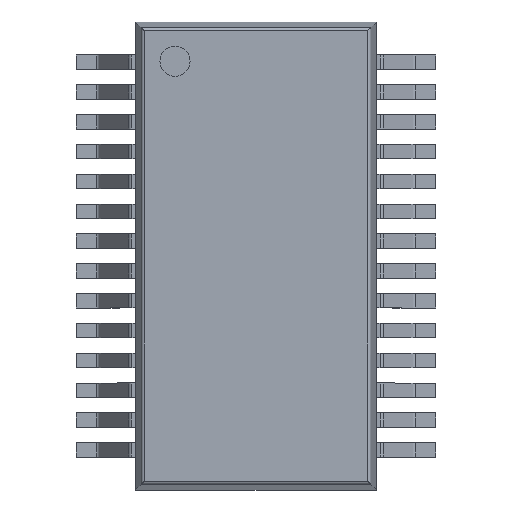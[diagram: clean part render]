
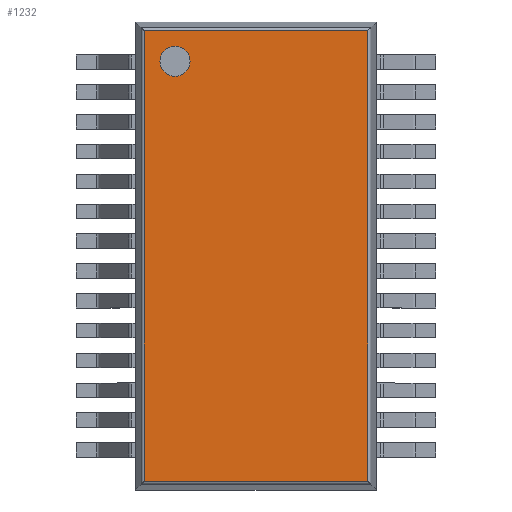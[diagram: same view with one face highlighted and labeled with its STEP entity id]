
A CAD part, top view. The second image highlights one B-rep face of the part: STEP entity #1232.
In plain terms, the highlighted planar face has unit normal (0, 0, 1).
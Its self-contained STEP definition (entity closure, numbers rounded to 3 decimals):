
#829 = CYLINDRICAL_SURFACE('',#830,0.07);
#830 = AXIS2_PLACEMENT_3D('',#831,#832,#833);
#831 = CARTESIAN_POINT('',(-2.431,-4.969,1.91));
#832 = DIRECTION('',(0.,1.,0.));
#833 = DIRECTION('',(-0.989,0.,0.145));
#971 = CYLINDRICAL_SURFACE('',#972,0.07);
#972 = AXIS2_PLACEMENT_3D('',#973,#974,#975);
#973 = CARTESIAN_POINT('',(-2.491,-4.908,1.91));
#974 = DIRECTION('',(1.,0.,0.));
#975 = DIRECTION('',(0.,-0.989,0.145));
#987 = VERTEX_POINT('',#988);
#988 = CARTESIAN_POINT('',(-2.431,-4.908,1.98));
#1022 = EDGE_CURVE('',#987,#1023,#1025,.T.);
#1023 = VERTEX_POINT('',#1024);
#1024 = CARTESIAN_POINT('',(-2.431,4.908,1.98));
#1025 = SURFACE_CURVE('',#1026,(#1030,#1037),.PCURVE_S1.);
#1026 = LINE('',#1027,#1028);
#1027 = CARTESIAN_POINT('',(-2.431,-4.969,1.98));
#1028 = VECTOR('',#1029,1.);
#1029 = DIRECTION('',(0.,1.,0.));
#1030 = PCURVE('',#829,#1031);
#1031 = DEFINITIONAL_REPRESENTATION('',(#1032),#1036);
#1032 = LINE('',#1033,#1034);
#1033 = CARTESIAN_POINT('',(1.425,0.));
#1034 = VECTOR('',#1035,1.);
#1035 = DIRECTION('',(0.,1.));
#1036 = ( GEOMETRIC_REPRESENTATION_CONTEXT(2) 
PARAMETRIC_REPRESENTATION_CONTEXT() REPRESENTATION_CONTEXT('2D SPACE',''
  ) );
#1037 = PCURVE('',#1038,#1043);
#1038 = PLANE('',#1039);
#1039 = AXIS2_PLACEMENT_3D('',#1040,#1041,#1042);
#1040 = CARTESIAN_POINT('',(-2.623,-5.1,1.98));
#1041 = DIRECTION('',(0.,0.,1.));
#1042 = DIRECTION('',(1.,0.,0.));
#1043 = DEFINITIONAL_REPRESENTATION('',(#1044),#1048);
#1044 = LINE('',#1045,#1046);
#1045 = CARTESIAN_POINT('',(0.192,0.131));
#1046 = VECTOR('',#1047,1.);
#1047 = DIRECTION('',(0.,1.));
#1048 = ( GEOMETRIC_REPRESENTATION_CONTEXT(2) 
PARAMETRIC_REPRESENTATION_CONTEXT() REPRESENTATION_CONTEXT('2D SPACE',''
  ) );
#1071 = CYLINDRICAL_SURFACE('',#1072,0.07);
#1072 = AXIS2_PLACEMENT_3D('',#1073,#1074,#1075);
#1073 = CARTESIAN_POINT('',(-2.491,4.908,1.91));
#1074 = DIRECTION('',(1.,0.,0.));
#1075 = DIRECTION('',(0.,0.,1.));
#1159 = CYLINDRICAL_SURFACE('',#1160,0.07);
#1160 = AXIS2_PLACEMENT_3D('',#1161,#1162,#1163);
#1161 = CARTESIAN_POINT('',(2.431,-4.969,1.91));
#1162 = DIRECTION('',(0.,1.,0.));
#1163 = DIRECTION('',(0.,0.,1.));
#1175 = EDGE_CURVE('',#987,#1176,#1178,.T.);
#1176 = VERTEX_POINT('',#1177);
#1177 = CARTESIAN_POINT('',(2.431,-4.908,1.98));
#1178 = SURFACE_CURVE('',#1179,(#1183,#1190),.PCURVE_S1.);
#1179 = LINE('',#1180,#1181);
#1180 = CARTESIAN_POINT('',(-2.491,-4.908,1.98));
#1181 = VECTOR('',#1182,1.);
#1182 = DIRECTION('',(1.,0.,0.));
#1183 = PCURVE('',#971,#1184);
#1184 = DEFINITIONAL_REPRESENTATION('',(#1185),#1189);
#1185 = LINE('',#1186,#1187);
#1186 = CARTESIAN_POINT('',(-1.425,0.));
#1187 = VECTOR('',#1188,1.);
#1188 = DIRECTION('',(-0.,1.));
#1189 = ( GEOMETRIC_REPRESENTATION_CONTEXT(2) 
PARAMETRIC_REPRESENTATION_CONTEXT() REPRESENTATION_CONTEXT('2D SPACE',''
  ) );
#1190 = PCURVE('',#1038,#1191);
#1191 = DEFINITIONAL_REPRESENTATION('',(#1192),#1196);
#1192 = LINE('',#1193,#1194);
#1193 = CARTESIAN_POINT('',(0.131,0.192));
#1194 = VECTOR('',#1195,1.);
#1195 = DIRECTION('',(1.,0.));
#1196 = ( GEOMETRIC_REPRESENTATION_CONTEXT(2) 
PARAMETRIC_REPRESENTATION_CONTEXT() REPRESENTATION_CONTEXT('2D SPACE',''
  ) );
#1232 = ADVANCED_FACE('',(#1233,#1281),#1038,.T.);
#1233 = FACE_BOUND('',#1234,.T.);
#1234 = EDGE_LOOP('',(#1235,#1236,#1237,#1260));
#1235 = ORIENTED_EDGE('',*,*,#1022,.F.);
#1236 = ORIENTED_EDGE('',*,*,#1175,.T.);
#1237 = ORIENTED_EDGE('',*,*,#1238,.T.);
#1238 = EDGE_CURVE('',#1176,#1239,#1241,.T.);
#1239 = VERTEX_POINT('',#1240);
#1240 = CARTESIAN_POINT('',(2.431,4.908,1.98));
#1241 = SURFACE_CURVE('',#1242,(#1246,#1253),.PCURVE_S1.);
#1242 = LINE('',#1243,#1244);
#1243 = CARTESIAN_POINT('',(2.431,-4.969,1.98));
#1244 = VECTOR('',#1245,1.);
#1245 = DIRECTION('',(0.,1.,0.));
#1246 = PCURVE('',#1038,#1247);
#1247 = DEFINITIONAL_REPRESENTATION('',(#1248),#1252);
#1248 = LINE('',#1249,#1250);
#1249 = CARTESIAN_POINT('',(5.053,0.131));
#1250 = VECTOR('',#1251,1.);
#1251 = DIRECTION('',(0.,1.));
#1252 = ( GEOMETRIC_REPRESENTATION_CONTEXT(2) 
PARAMETRIC_REPRESENTATION_CONTEXT() REPRESENTATION_CONTEXT('2D SPACE',''
  ) );
#1253 = PCURVE('',#1159,#1254);
#1254 = DEFINITIONAL_REPRESENTATION('',(#1255),#1259);
#1255 = LINE('',#1256,#1257);
#1256 = CARTESIAN_POINT('',(0.,0.));
#1257 = VECTOR('',#1258,1.);
#1258 = DIRECTION('',(0.,1.));
#1259 = ( GEOMETRIC_REPRESENTATION_CONTEXT(2) 
PARAMETRIC_REPRESENTATION_CONTEXT() REPRESENTATION_CONTEXT('2D SPACE',''
  ) );
#1260 = ORIENTED_EDGE('',*,*,#1261,.F.);
#1261 = EDGE_CURVE('',#1023,#1239,#1262,.T.);
#1262 = SURFACE_CURVE('',#1263,(#1267,#1274),.PCURVE_S1.);
#1263 = LINE('',#1264,#1265);
#1264 = CARTESIAN_POINT('',(-2.491,4.908,1.98));
#1265 = VECTOR('',#1266,1.);
#1266 = DIRECTION('',(1.,0.,0.));
#1267 = PCURVE('',#1038,#1268);
#1268 = DEFINITIONAL_REPRESENTATION('',(#1269),#1273);
#1269 = LINE('',#1270,#1271);
#1270 = CARTESIAN_POINT('',(0.131,10.008));
#1271 = VECTOR('',#1272,1.);
#1272 = DIRECTION('',(1.,0.));
#1273 = ( GEOMETRIC_REPRESENTATION_CONTEXT(2) 
PARAMETRIC_REPRESENTATION_CONTEXT() REPRESENTATION_CONTEXT('2D SPACE',''
  ) );
#1274 = PCURVE('',#1071,#1275);
#1275 = DEFINITIONAL_REPRESENTATION('',(#1276),#1280);
#1276 = LINE('',#1277,#1278);
#1277 = CARTESIAN_POINT('',(-0.,0.));
#1278 = VECTOR('',#1279,1.);
#1279 = DIRECTION('',(-0.,1.));
#1280 = ( GEOMETRIC_REPRESENTATION_CONTEXT(2) 
PARAMETRIC_REPRESENTATION_CONTEXT() REPRESENTATION_CONTEXT('2D SPACE',''
  ) );
#1281 = FACE_BOUND('',#1282,.T.);
#1282 = EDGE_LOOP('',(#1283));
#1283 = ORIENTED_EDGE('',*,*,#1284,.F.);
#1284 = EDGE_CURVE('',#1285,#1285,#1287,.T.);
#1285 = VERTEX_POINT('',#1286);
#1286 = CARTESIAN_POINT('',(-1.438,4.243,1.98));
#1287 = SURFACE_CURVE('',#1288,(#1293,#1300),.PCURVE_S1.);
#1288 = CIRCLE('',#1289,0.328);
#1289 = AXIS2_PLACEMENT_3D('',#1290,#1291,#1292);
#1290 = CARTESIAN_POINT('',(-1.766,4.243,1.98));
#1291 = DIRECTION('',(0.,0.,1.));
#1292 = DIRECTION('',(1.,0.,0.));
#1293 = PCURVE('',#1038,#1294);
#1294 = DEFINITIONAL_REPRESENTATION('',(#1295),#1299);
#1295 = CIRCLE('',#1296,0.328);
#1296 = AXIS2_PLACEMENT_2D('',#1297,#1298);
#1297 = CARTESIAN_POINT('',(0.857,9.343));
#1298 = DIRECTION('',(1.,0.));
#1299 = ( GEOMETRIC_REPRESENTATION_CONTEXT(2) 
PARAMETRIC_REPRESENTATION_CONTEXT() REPRESENTATION_CONTEXT('2D SPACE',''
  ) );
#1300 = PCURVE('',#1301,#1306);
#1301 = CYLINDRICAL_SURFACE('',#1302,0.328);
#1302 = AXIS2_PLACEMENT_3D('',#1303,#1304,#1305);
#1303 = CARTESIAN_POINT('',(-1.766,4.243,1.782));
#1304 = DIRECTION('',(0.,0.,1.));
#1305 = DIRECTION('',(1.,0.,0.));
#1306 = DEFINITIONAL_REPRESENTATION('',(#1307),#1310);
#1307 = B_SPLINE_CURVE_WITH_KNOTS('',1,(#1308,#1309),.UNSPECIFIED.,.F.,
  .F.,(2,2),(0.,6.283),.PIECEWISE_BEZIER_KNOTS.);
#1308 = CARTESIAN_POINT('',(0.,0.198));
#1309 = CARTESIAN_POINT('',(6.283,0.198));
#1310 = ( GEOMETRIC_REPRESENTATION_CONTEXT(2) 
PARAMETRIC_REPRESENTATION_CONTEXT() REPRESENTATION_CONTEXT('2D SPACE',''
  ) );
